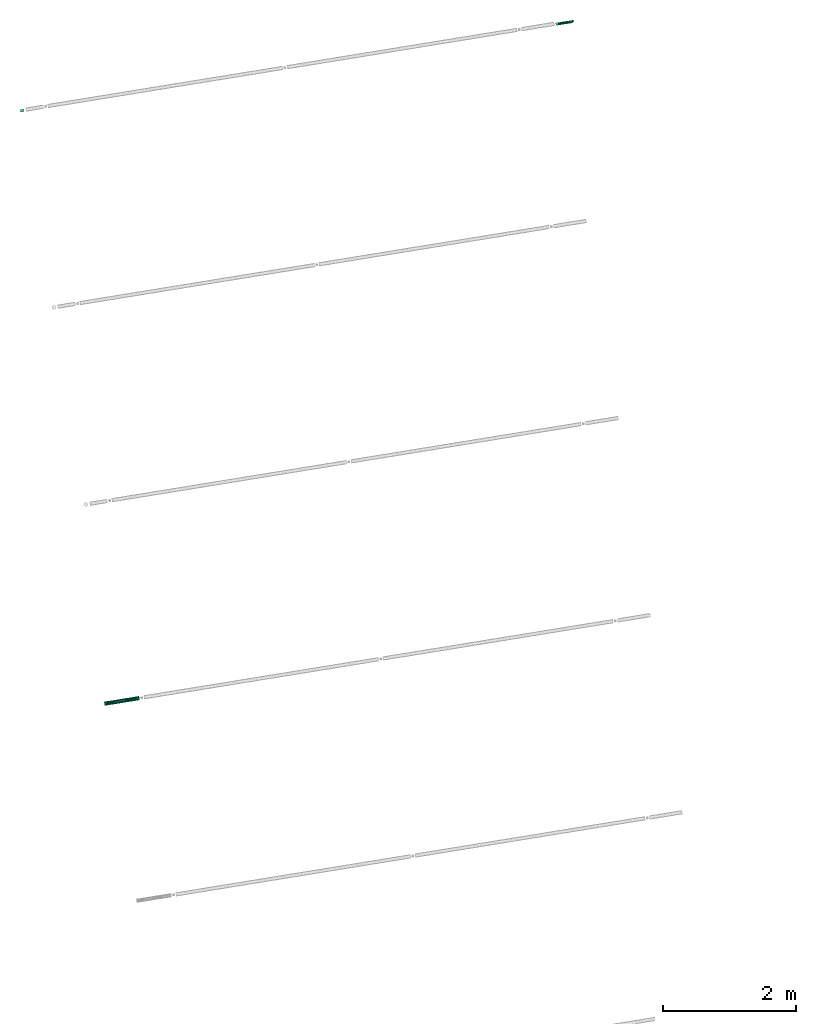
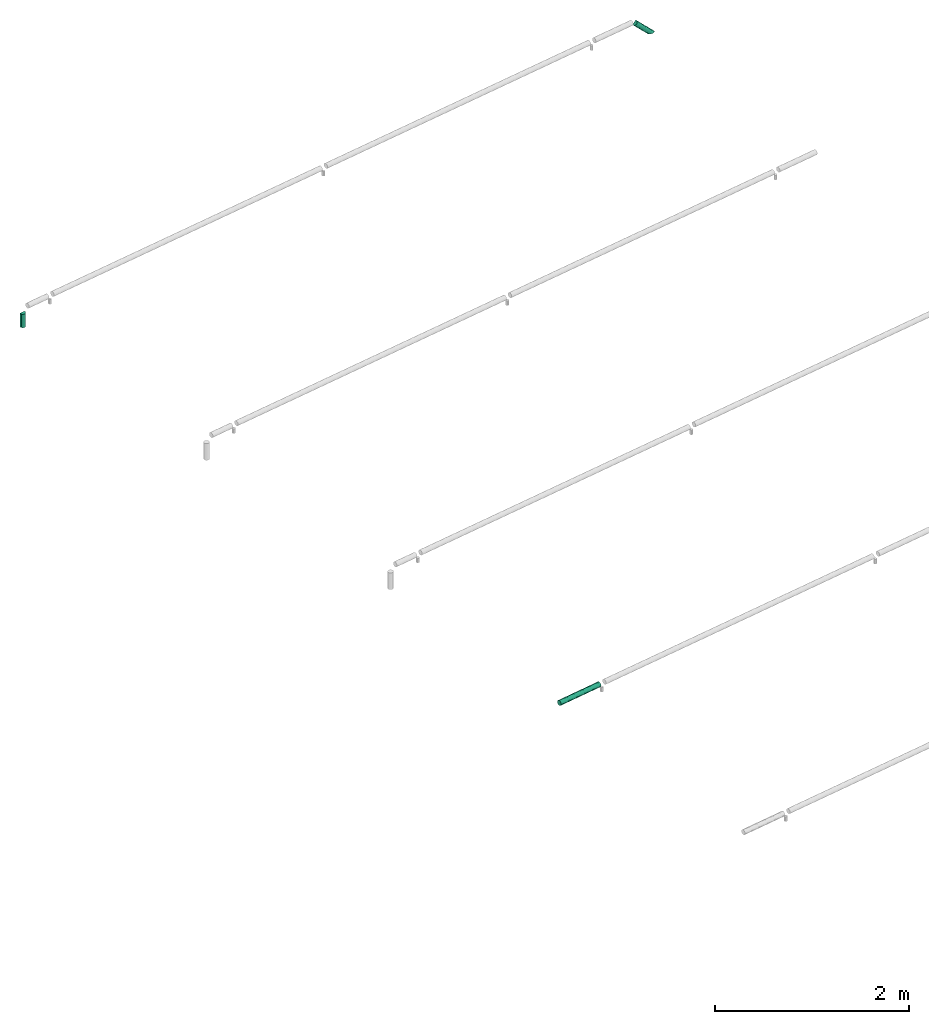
# One storey, part 10 of 10: 3 flow segments.
"""IFC2X3 building model written with IfcOpenShell, lengths in millimetres."""

from ifc_helpers import new_model, entity, si_unit, converted_unit, derived_unit, direction, frame, origin, origin_with_axes, place, context, subcontext, project, spatial, faceted_brep, type_object, element, save


model = new_model("IFC2X3")

# Units and contexts
plan_context = context("Plan", 3, precision=1e-05, world=origin_with_axes())
model_context = context("Model", 3, precision=0.01, world=origin(), true_north=direction((6.12323399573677e-17, 1.0)))
body_context = subcontext(model_context, "Body", "Model", "MODEL_VIEW")
ifc_project = project(units=[converted_unit("PLANEANGLEUNIT", "DEGREE", entity("IfcPositiveLengthMeasure", 0.0174532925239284), si_unit("PLANEANGLEUNIT", "RADIAN"), dimensions=[0, 0, 0, 0, 0, 0, 0]), si_unit("AREAUNIT", "SQUARE_METRE"), si_unit("LENGTHUNIT", "METRE", prefix="MILLI"), si_unit("MASSUNIT", "GRAM", prefix="KILO"), si_unit("POWERUNIT", "WATT"), si_unit("PRESSUREUNIT", "PASCAL", prefix="KILO"), si_unit("FORCEUNIT", "NEWTON", prefix="KILO"), si_unit("ELECTRICVOLTAGEUNIT", "VOLT"), si_unit("ELECTRICCURRENTUNIT", "AMPERE"), si_unit("THERMODYNAMICTEMPERATUREUNIT", "DEGREE_CELSIUS"), si_unit("TIMEUNIT", "SECOND"), si_unit("VOLUMEUNIT", "CUBIC_METRE"), derived_unit("LINEARVELOCITYUNIT", [(si_unit("LENGTHUNIT", "METRE"), 1), (si_unit("TIMEUNIT", "SECOND"), -1)]), derived_unit("VOLUMETRICFLOWRATEUNIT", [(si_unit("VOLUMEUNIT", "CUBIC_METRE"), 1), (si_unit("TIMEUNIT", "SECOND"), -1)]), derived_unit("THERMALTRANSMITTANCEUNIT", [(si_unit("POWERUNIT", "WATT"), 1), (si_unit("THERMODYNAMICTEMPERATUREUNIT", "KELVIN"), -1), (si_unit("AREAUNIT", "SQUARE_METRE"), -1)]), derived_unit("SOUNDPRESSUREUNIT", [(si_unit("PRESSUREUNIT", "PASCAL"), 1)])], contexts=[model_context, plan_context])

# Site, building, storey
site_placement = place(None, frame((-0.00071070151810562, 0.00438415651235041, 0.0), z_axis=(0.0, 0.0, 1.0), x_axis=(-0.160236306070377, 0.987078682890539, 0.0)))
site = spatial("IfcSite", under=ifc_project, at=site_placement, Name="Default", CompositionType="ELEMENT")
building_placement = place(site_placement, origin_with_axes())
building = spatial("IfcBuilding", under=site, at=building_placement, CompositionType="ELEMENT")
storey_placement = place(building_placement, frame((0.0, 0.0, 55630.0), z_axis=(0.0, 0.0, 1.0), x_axis=(1.0, 0.0, 0.0)))
storey = spatial("IfcBuildingStorey", under=building, at=storey_placement, Name="Nivå E", CompositionType="ELEMENT", Elevation=55630.0)

# Flow segments
pipe_segment_type = type_object("IfcPipeSegmentType", Name="Pipe Types:Stålrør normaltykke", PredefinedType="NOTDEFINED")
flow_segment_1_placement = place(storey_placement, origin_with_axes())
element("IfcFlowSegment", 1, at=flow_segment_1_placement, inside=storey, type_object=pipe_segment_type, Name="Pipe Types:Stålrør normaltykke", ObjectType="Pipe Types:Stålrør normaltykke", context=body_context, shape_type="Brep", body=[
    faceted_brep([(787387.931551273, -501080.326789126, 2369.9999999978), (787388.155021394, -501080.430994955, 2369.9999999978), (787388.155021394, -501080.430994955, 2539.59999999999), (787387.931551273, -501080.326789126, 2539.59999999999), (787382.855136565, -501078.966567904, 2369.9999999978), (787382.855136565, -501078.966567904, 2539.59999999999), (787377.619644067, -501078.508521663, 2369.9999999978), (787377.619644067, -501078.508521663, 2539.59999999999), (787372.384151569, -501078.966567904, 2369.9999999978), (787372.384151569, -501078.966567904, 2539.59999999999), (787367.30773686, -501080.326789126, 2369.9999999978), (787367.30773686, -501080.326789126, 2539.59999999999), (787362.544644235, -501082.547855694, 2369.9999999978), (787362.544644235, -501082.547855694, 2539.59999999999), (787358.239597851, -501085.562281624, 2369.9999999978), (787358.239597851, -501085.562281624, 2539.59999999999), (787354.523404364, -501089.278475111, 2369.9999999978), (787354.523404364, -501089.278475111, 2539.59999999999), (787351.508978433, -501093.583521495, 2369.9999999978), (787351.508978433, -501093.583521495, 2539.59999999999), (787349.287911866, -501098.346614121, 2369.9999999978), (787349.287911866, -501098.346614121, 2539.59999999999), (787347.927690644, -501103.423028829, 2369.9999999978), (787347.927690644, -501103.423028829, 2539.59999999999), (787347.469644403, -501108.658521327, 2369.9999999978), (787347.469644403, -501108.658521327, 2539.59999999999), (787347.927690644, -501113.894013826, 2369.9999999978), (787347.927690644, -501113.894013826, 2539.59999999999), (787349.287911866, -501118.970428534, 2369.9999999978), (787349.287911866, -501118.970428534, 2539.59999999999), (787351.508978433, -501123.733521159, 2369.9999999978), (787351.508978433, -501123.733521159, 2539.59999999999), (787354.523404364, -501128.038567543, 2369.9999999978), (787354.523404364, -501128.038567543, 2539.59999999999), (787358.239597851, -501131.75476103, 2369.9999999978), (787358.239597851, -501131.75476103, 2539.59999999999), (787362.544644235, -501134.769186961, 2369.9999999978), (787362.544644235, -501134.769186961, 2539.59999999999), (787367.30773686, -501136.990253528, 2369.9999999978), (787367.30773686, -501136.990253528, 2539.59999999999), (787372.384151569, -501138.35047475, 2369.9999999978), (787372.384151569, -501138.35047475, 2539.59999999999), (787377.619644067, -501138.808520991, 2369.9999999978), (787377.619644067, -501138.808520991, 2539.59999999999), (787382.855136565, -501138.35047475, 2369.9999999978), (787382.855136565, -501138.35047475, 2539.59999999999), (787388.155021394, -501136.8860477, 2539.59999999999), (787388.155021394, -501136.93037489, 2369.9999999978), (787387.931551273, -501136.990253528, 2369.9999999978), (787387.931551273, -501136.990253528, 2539.59999999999), (787388.155021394, -501136.8860477, 2369.9999999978)], [[[0, 1, 2, 3]], [[4, 0, 3, 5]], [[6, 4, 5, 7]], [[8, 6, 7, 9]], [[10, 8, 9, 11]], [[12, 10, 11, 13]], [[14, 12, 13, 15]], [[16, 14, 15, 17]], [[18, 16, 17, 19]], [[20, 18, 19, 21]], [[22, 20, 21, 23]], [[24, 22, 23, 25]], [[26, 24, 25, 27]], [[28, 26, 27, 29]], [[30, 28, 29, 31]], [[32, 30, 31, 33]], [[34, 32, 33, 35]], [[36, 34, 35, 37]], [[38, 36, 37, 39]], [[40, 38, 39, 41]], [[42, 40, 41, 43]], [[44, 42, 43, 45]], [[46, 47, 48, 49]], [[2, 46, 49, 45, 43, 41, 39, 37, 35, 33, 31, 29, 27, 25, 23, 21, 19, 17, 15, 13, 11, 9, 7, 5, 3]], [[50, 46, 2, 1]], [[1, 0, 4, 6, 8, 10, 12, 14, 16, 18, 20, 22, 24, 26, 28, 30, 32, 34, 36, 38, 40, 42, 44, 48, 50]]], orient=[[False], [False], [False], [False], [False], [False], [False], [False], [False], [False], [False], [False], [False], [False], [False], [False], [False], [False], [False], [False], [False], [False], [False], [False], [False], [False]]),
])
flow_segment_2_placement = place(storey_placement, origin_with_axes())
element("IfcFlowSegment", 2, at=flow_segment_2_placement, inside=storey, type_object=pipe_segment_type, Name="Pipe Types:Stålrør normaltykke", ObjectType="Pipe Types:Stålrør normaltykke", context=body_context, shape_type="Brep", body=[
    faceted_brep([(778407.31159749, -500902.480498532, 2605.23549249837), (778407.769643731, -500902.480498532, 2600.0), (778407.769643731, -501434.677242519, 2600.0), (778407.31159749, -501434.677242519, 2605.23549249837), (778407.31159749, -500902.480498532, 2594.76450750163), (778407.31159749, -501434.677242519, 2594.76450750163), (778405.951376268, -500902.480498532, 2589.68809279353), (778405.951376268, -501434.677242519, 2589.68809279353), (778403.7303097, -500902.480498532, 2584.92500016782), (778403.7303097, -501434.677242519, 2584.92500016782), (778400.71588377, -500902.480498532, 2580.6199537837), (778400.71588377, -501434.677242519, 2580.6199537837), (778396.999690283, -500902.480498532, 2576.90376029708), (778396.999690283, -501434.677242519, 2576.90376029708), (778392.694643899, -500902.480498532, 2573.88933436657), (778392.694643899, -501434.677242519, 2573.88933436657), (778387.931551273, -500902.480498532, 2571.66826779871), (778387.931551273, -501434.677242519, 2571.66826779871), (778382.855136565, -500902.480498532, 2570.30804657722), (778382.855136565, -501434.677242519, 2570.30804657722), (778377.619644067, -500902.480498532, 2569.85000033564), (778377.619644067, -501434.677242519, 2569.85000033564), (778372.384151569, -500902.480498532, 2570.30804657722), (778372.384151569, -501434.677242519, 2570.30804657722), (778367.30773686, -500902.480498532, 2571.66826779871), (778367.30773686, -501434.677242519, 2571.66826779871), (778362.544644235, -500902.480498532, 2573.88933436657), (778362.544644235, -501434.677242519, 2573.88933436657), (778358.239597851, -500902.480498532, 2576.90376029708), (778358.239597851, -501434.677242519, 2576.90376029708), (778354.523404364, -500902.480498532, 2580.6199537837), (778354.523404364, -501434.677242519, 2580.6199537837), (778351.508978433, -500902.480498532, 2584.92500016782), (778351.508978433, -501434.677242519, 2584.92500016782), (778349.287911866, -500902.480498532, 2589.68809279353), (778349.287911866, -501434.677242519, 2589.68809279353), (778347.927690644, -500902.480498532, 2594.76450750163), (778347.927690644, -501434.677242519, 2594.76450750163), (778347.469644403, -500902.480498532, 2600.0), (778347.469644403, -501434.677242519, 2600.0), (778347.927690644, -500902.480498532, 2605.23549249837), (778347.927690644, -501434.677242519, 2605.23549249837), (778349.287911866, -500902.480498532, 2610.31190720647), (778349.287911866, -501434.677242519, 2610.31190720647), (778351.508978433, -500902.480498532, 2615.07499983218), (778351.508978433, -501434.677242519, 2615.07499983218), (778354.523404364, -500902.480498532, 2619.3800462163), (778354.523404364, -501434.677242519, 2619.3800462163), (778358.239597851, -500902.480498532, 2623.09623970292), (778358.239597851, -501434.677242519, 2623.09623970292), (778362.544644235, -500902.480498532, 2626.11066563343), (778362.544644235, -501434.677242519, 2626.11066563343), (778367.30773686, -500902.480498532, 2628.33173220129), (778367.30773686, -501434.677242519, 2628.33173220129), (778372.384151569, -500902.480498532, 2629.69195342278), (778372.384151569, -501434.677242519, 2629.69195342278), (778377.619644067, -500902.480498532, 2630.14999966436), (778377.619644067, -501434.677242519, 2630.14999966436), (778382.855136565, -500902.480498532, 2629.69195342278), (778382.855136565, -501434.677242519, 2629.69195342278), (778387.931551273, -500902.480498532, 2628.33173220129), (778387.931551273, -501434.677242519, 2628.33173220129), (778392.694643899, -500902.480498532, 2626.11066563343), (778392.694643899, -501434.677242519, 2626.11066563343), (778396.999690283, -500902.480498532, 2623.09623970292), (778396.999690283, -501434.677242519, 2623.09623970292), (778400.71588377, -500902.480498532, 2619.3800462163), (778400.71588377, -501434.677242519, 2619.3800462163), (778403.7303097, -500902.480498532, 2615.07499983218), (778403.7303097, -501434.677242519, 2615.07499983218), (778405.951376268, -500902.480498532, 2610.31190720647), (778405.951376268, -501434.677242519, 2610.31190720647)], [[[0, 1, 2, 3]], [[1, 4, 5, 2]], [[4, 6, 7, 5]], [[6, 8, 9, 7]], [[8, 10, 11, 9]], [[10, 12, 13, 11]], [[12, 14, 15, 13]], [[14, 16, 17, 15]], [[16, 18, 19, 17]], [[18, 20, 21, 19]], [[20, 22, 23, 21]], [[22, 24, 25, 23]], [[24, 26, 27, 25]], [[26, 28, 29, 27]], [[28, 30, 31, 29]], [[30, 32, 33, 31]], [[32, 34, 35, 33]], [[34, 36, 37, 35]], [[36, 38, 39, 37]], [[38, 40, 41, 39]], [[40, 42, 43, 41]], [[42, 44, 45, 43]], [[44, 46, 47, 45]], [[46, 48, 49, 47]], [[48, 50, 51, 49]], [[50, 52, 53, 51]], [[52, 54, 55, 53]], [[54, 56, 57, 55]], [[56, 58, 59, 57]], [[58, 60, 61, 59]], [[60, 62, 63, 61]], [[62, 64, 65, 63]], [[64, 66, 67, 65]], [[66, 68, 69, 67]], [[68, 70, 71, 69]], [[70, 0, 3, 71]], [[3, 2, 5, 7, 9, 11, 13, 15, 17, 19, 21, 23, 25, 27, 29, 31, 33, 35, 37, 39, 41, 43, 45, 47, 49, 51, 53, 55, 57, 59, 61, 63, 65, 67, 69, 71]], [[70, 68, 66, 64, 62, 60, 58, 56, 54, 52, 50, 48, 46, 44, 42, 40, 38, 36, 34, 32, 30, 28, 26, 24, 22, 20, 18, 16, 14, 12, 10, 8, 6, 4, 1, 0]]], orient=[[False], [False], [False], [False], [False], [False], [False], [False], [False], [False], [False], [False], [False], [False], [False], [False], [False], [False], [False], [False], [False], [False], [False], [False], [False], [False], [False], [False], [False], [False], [False], [False], [False], [False], [False], [False], [False], [False]]),
])
flow_segment_3_placement = place(storey_placement, origin_with_axes())
element("IfcFlowSegment", 3, at=flow_segment_3_placement, inside=storey, type_object=pipe_segment_type, Name="Pipe Types:Stålrør normaltykke", ObjectType="Pipe Types:Stålrør normaltykke", context=body_context, shape_type="Brep", body=[
    faceted_brep([(787387.931551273, -509424.911609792, 2369.99999999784), (787388.155021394, -509425.058979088, 2369.9999999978), (787388.155021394, -509232.709604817, 2562.34937426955), (787387.931551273, -509232.635920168, 2562.27568962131), (787382.855136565, -509422.987966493, 2369.99999999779), (787382.855136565, -509231.674098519, 2561.31386797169), (787377.619644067, -509422.340191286, 2369.99999999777), (787377.619644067, -509231.350210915, 2560.98998036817), (787372.384151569, -509422.987966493, 2369.9999999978), (787372.384151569, -509231.674098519, 2561.31386797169), (787367.307736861, -509424.911609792, 2369.99999999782), (787367.30773686, -509232.635920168, 2562.27568962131), (787362.544644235, -509428.052672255, 2369.99999999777), (787362.544644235, -509234.2064514, 2563.84622085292), (787358.239597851, -509432.315714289, 2369.99999999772), (787358.239597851, -509236.337972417, 2565.97774186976), (787354.523404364, -509437.571205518, 2369.99999999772), (787354.523404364, -509238.965718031, 2568.60548748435), (787351.508978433, -509443.659460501, 2369.9999999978), (787351.508978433, -509242.009845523, 2571.64961497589), (787349.287911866, -509450.395490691, 2369.99999999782), (787349.287911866, -509245.377860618, 2575.01763007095), (787347.927690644, -509457.574625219, 2369.99999999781), (787347.927690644, -509248.967427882, 2578.60719733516), (787347.469644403, -509464.978729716, 2369.9999999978), (787347.469644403, -509252.669480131, 2582.30924958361), (787347.927690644, -509472.382834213, 2369.9999999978), (787347.927690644, -509256.371532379, 2586.01130183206), (787349.287911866, -509479.561968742, 2369.99999999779), (787349.287911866, -509259.961099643, 2589.60086909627), (787351.508978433, -509486.297998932, 2369.99999999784), (787351.508978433, -509263.329114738, 2592.96888419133), (787354.523404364, -509492.386253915, 2369.99999999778), (787354.523404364, -509266.37324223, 2596.01301168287), (787358.239597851, -509497.641745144, 2369.9999999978), (787358.239597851, -509269.000987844, 2598.64075729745), (787362.544644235, -509501.904787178, 2369.99999999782), (787362.544644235, -509271.132508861, 2600.7722783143), (787367.30773686, -509505.045849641, 2369.99999999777), (787367.30773686, -509272.703040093, 2602.34280954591), (787372.384151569, -509506.96949294, 2369.9999999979), (787372.384151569, -509273.664861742, 2603.30463119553), (787377.619644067, -509507.617268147, 2369.99999999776), (787377.619644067, -509273.988749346, 2603.62851879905), (787382.855136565, -509506.96949294, 2369.99999999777), (787382.855136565, -509273.664861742, 2603.30463119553), (787387.931551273, -509505.045849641, 2369.99999999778), (787387.931551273, -509272.703040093, 2602.34280954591), (787388.155021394, -509272.629355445, 2602.26912489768), (787388.155021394, -509504.961168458, 2369.9999999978), (787388.155021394, -509504.898480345, 2369.99999999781)], [[[0, 1, 2, 3]], [[4, 1, 3, 5]], [[6, 4, 5, 7]], [[8, 6, 7, 9]], [[10, 8, 9, 11]], [[12, 10, 11, 13]], [[14, 12, 13, 15]], [[16, 14, 15, 17]], [[18, 16, 17, 19]], [[20, 18, 19, 21]], [[22, 20, 21, 23]], [[24, 22, 23, 25]], [[26, 24, 25, 27]], [[28, 26, 27, 29]], [[30, 28, 29, 31]], [[32, 30, 31, 33]], [[34, 32, 33, 35]], [[36, 34, 35, 37]], [[38, 36, 37, 39]], [[40, 38, 39, 41]], [[42, 40, 41, 43]], [[44, 42, 43, 45]], [[46, 44, 45, 47]], [[48, 49, 46, 47]], [[2, 48, 47, 45, 43, 41, 39, 37, 35, 33, 31, 29, 27, 25, 23, 21, 19, 17, 15, 13, 11, 9, 7, 5, 3]], [[50, 48, 2, 1]], [[1, 0, 4, 6, 8, 10, 12, 14, 16, 18, 20, 22, 24, 26, 28, 30, 32, 34, 36, 38, 40, 42, 44, 46, 50]]], orient=[[False], [False], [False], [False], [False], [False], [False], [False], [False], [False], [False], [False], [False], [False], [False], [False], [False], [False], [False], [False], [False], [False], [False], [False], [False], [False], [False]]),
])

save(model, "model.ifc")
